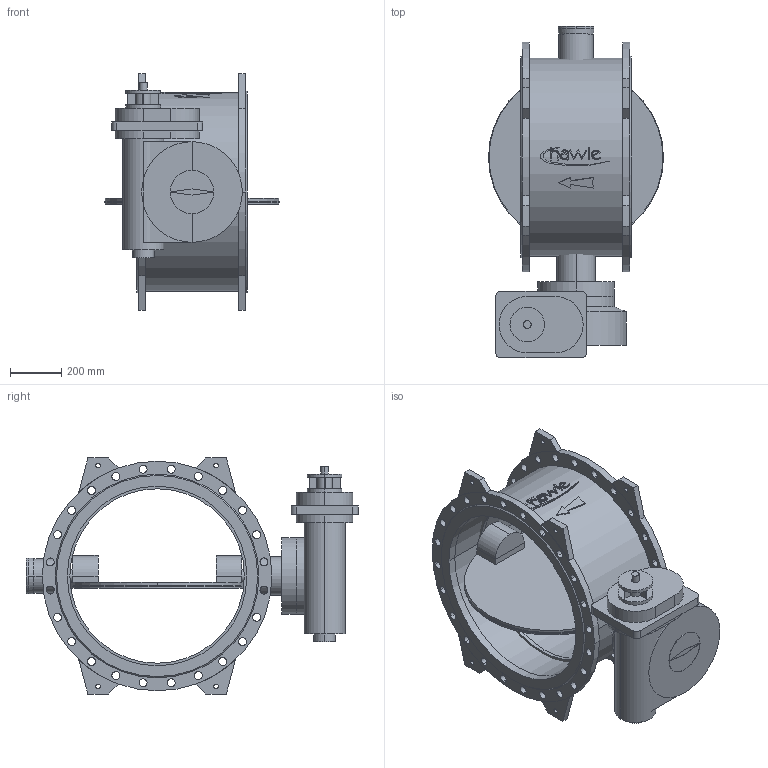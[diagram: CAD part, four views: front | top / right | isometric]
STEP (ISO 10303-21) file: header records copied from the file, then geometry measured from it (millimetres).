
FILE_DESCRIPTION(('STEP AP214'),'1');
FILE_NAME('S:/EK/USER/CAT6/3DHomepage_27-04-2012/neu_08-01-2013/9881K/9881K_PN10_DN700.STP','2013-03-11T15:08:43',(' '),(' '),'Spatial InterOp 3D',' ',' ');
FILE_SCHEMA(('automotive_design'));
Length unit declared in the file: millimetre
Products named in the file (52): 3D-Objekt
Bounding box: 682 x 1294 x 920 mm (x, y, z)
Volume: 112646448.1 mm3; surface area: 7158143.8 mm2
Topology: 52 solids, 52 shells, 449 faces, 1026 edges, 684 vertices
Faces by surface type: cylinder 227, plane 214, cone 8
Entity records: 17868 total; most frequent: DIRECTION 2498, CARTESIAN_POINT 2211, ORIENTED_EDGE 2052, EDGE_CURVE 1026, AXIS2_PLACEMENT_3D 971, VERTEX_POINT 684, EDGE_LOOP 576, LINE 556
